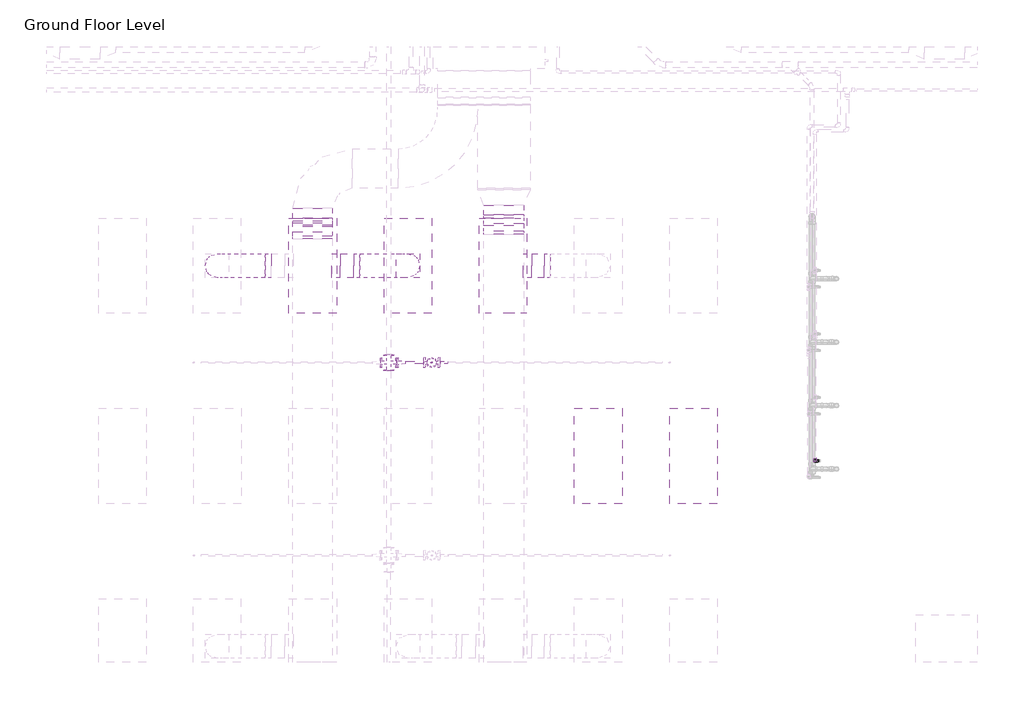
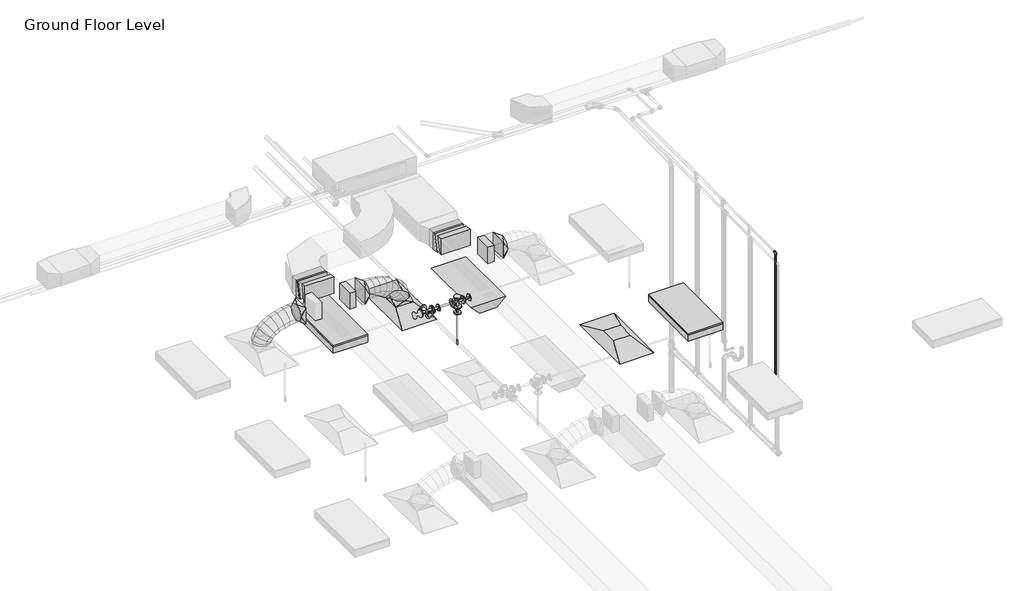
# One storey, part 48 of 68: 11 duct fittings, 8 duct segments, 7 pipe fittings, 4 pipe segments, 3 light fixtures, 2 air terminals, 1 fire suppression terminal.
"""IFC4 building model written with IfcOpenShell, lengths in millimetres."""

from ifc_helpers import new_model, si_unit, point, frame, frame_2d, origin, place, context, project, spatial, polyline, circle_curve, ellipse_curve, trimmed, segment, composite_curve, outline, extrude, transform, mapped, element, save
from ifc_brep_helpers import plane_surface, cylinder_surface, advanced_brep
from components import m_return_diffuser_1200x600_1200_x_600_face_300_x_300_d1983ef6, m_rectangular_elbow_radius_1_w_f78a0081, m_rectangular_elbow_radius_1_w_1a1d0e92, m_rectangular_takeoff_standard_cb0ccb98, m_rectangular_transition_angle_45_degree_8d40617b, m_rectangular_to_round_transition_angle_45_degree_641efff0, m_sprinkler_dry_pendent_hosted_15_mm_dry_pendent_9bda8e11, m_emergency_recessed_lighting_fixture_600x1200_277_5b10b25d, m_troffer_light_parabolic_rectangular1_0600x1200mm_4_lamp_86473d4a, m_cross_flanged_cs_class_150_standard_fc817054, m_reducer_flanged_cs_class_150_standard_ccf252ad, m_reducer_flanged_cs_class_150_standard_d42b2106, m_reducer_flanged_cs_class_150_standard_8338f9e4, m_tee_round_base_flanged_cs_class_150_standard_7e5987a1, standard_b266ab3f

model = new_model("IFC4")

# Units and contexts
model_context = context("Model", 3, world=origin())
ifc_project = project(units=[si_unit("LENGTHUNIT", "METRE", prefix="MILLI")], contexts=[model_context])

# Site, building, storey
site = spatial("IfcSite", under=ifc_project)
building = spatial("IfcBuilding", under=site)
storey = spatial("IfcBuildingStorey", under=building, Name="Ground Floor Level", Elevation=900.0)

# Air terminals
placement = place(None, origin())
m_return_diffuser_1200x600_1200_x_600_face_300_x_300_shape = m_return_diffuser_1200x600_1200_x_600_face_300_x_300_d1983ef6(model_context)
element("IfcAirTerminal", 1, ObjectType="M_Return Diffuser 1200x600 : 1200 x 600 Face 300 x 300 Connection", at=placement, inside=storey, context=model_context, shape_type="MappedRepresentation", body=[
    mapped(m_return_diffuser_1200x600_1200_x_600_face_300_x_300_shape, transform((-3337.2327605, 8835.2153534, 3650.0), x_axis=(0.0, 1.0, 0.0), y_axis=(-1.0, 0.0, 0.0), z_axis=(0.0, 0.0, 1.0))),
])
element("IfcAirTerminal", 2, ObjectType="M_Supply Diffuser 1200x600 : 1200 x 600 Face 300 x 300 Connection", at=placement, inside=storey, context=model_context, shape_type="MappedRepresentation", body=[
    mapped(m_return_diffuser_1200x600_1200_x_600_face_300_x_300_shape, transform((-5737.2327605, 11235.2153534, 3650.0), x_axis=(0.0, 1.0, 0.0), y_axis=(-1.0, 0.0, 0.0), z_axis=(0.0, 0.0, 1.0))),
])

# Duct fittings
m_rectangular_elbow_radius_1_w_shape = m_rectangular_elbow_radius_1_w_f78a0081(model_context)
element("IfcDuctFitting", 3, ObjectType="M_Rectangular Elbow - Radius : 1 W", at=placement, inside=storey, context=model_context, shape_type="MappedRepresentation", body=[
    mapped(m_rectangular_elbow_radius_1_w_shape, transform((-4528.6910789, 11671.1593756, 4149.9980527), x_axis=(0.0, 0.999999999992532, -3.864729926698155e-06), y_axis=(0.0, -3.864729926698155e-06, -0.999999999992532), z_axis=(-1.0, 0.0, 0.0))),
])
element("IfcDuctFitting", 4, ObjectType="M_Rectangular Elbow - Radius : 1 W", at=placement, inside=storey, context=model_context, shape_type="MappedRepresentation", body=[
    mapped(m_rectangular_elbow_radius_1_w_shape, transform((-4528.6910789, 11835.9032855, 4107.134916), x_axis=(0.0, -0.999999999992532, 3.864729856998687e-06), y_axis=(0.0, 3.864729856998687e-06, 0.999999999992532), z_axis=(-1.0, 0.0, 0.0))),
])
m_rectangular_elbow_radius_1_w_2_shape = m_rectangular_elbow_radius_1_w_1a1d0e92(model_context)
element("IfcDuctFitting", 5, ObjectType="M_Rectangular Elbow - Radius : 1 W", at=placement, inside=storey, context=model_context, shape_type="MappedRepresentation", body=[
    mapped(m_rectangular_elbow_radius_1_w_2_shape, transform((-6939.6910789, 11605.2153534, 4150.0), x_axis=(0.0, 1.0, 0.0), y_axis=(-4.8368849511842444e-06, 0.0, -0.9999999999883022), z_axis=(-0.9999999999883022, 0.0, 4.8368849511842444e-06))),
])
element("IfcDuctFitting", 6, ObjectType="M_Rectangular Elbow - Radius : 1 W", at=placement, inside=storey, context=model_context, shape_type="MappedRepresentation", body=[
    mapped(m_rectangular_elbow_radius_1_w_2_shape, transform((-6939.6912607, 11801.8710367, 4107.1399598), x_axis=(0.0, -1.0, 0.0), y_axis=(4.836885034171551e-06, 0.0, 0.9999999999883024), z_axis=(-0.9999999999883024, 0.0, 4.836885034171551e-06))),
])
m_rectangular_takeoff_standard_shape = m_rectangular_takeoff_standard_cb0ccb98(model_context)
element("IfcDuctFitting", 7, ObjectType="M_Rectangular Takeoff : Standard", at=placement, inside=storey, context=model_context, shape_type="MappedRepresentation", body=[
    mapped(m_rectangular_takeoff_standard_shape, transform((-4278.6910789, 11235.2153534, 4150.0), x_axis=(1.0, 0.0, 0.0), y_axis=(0.0, -1.0, 0.0), z_axis=(0.0, 0.0, -1.0))),
])
element("IfcDuctFitting", 8, ObjectType="M_Rectangular Takeoff : Standard", at=placement, inside=storey, context=model_context, shape_type="MappedRepresentation", body=[
    mapped(m_rectangular_takeoff_standard_shape, transform((-6689.6910789, 11235.2153534, 4150.0), x_axis=(1.0, 0.0, 0.0), y_axis=(0.0, -1.0, 0.0), z_axis=(0.0, 0.0, -1.0))),
])
m_rectangular_transition_angle_45_degree_shape = m_rectangular_transition_angle_45_degree_8d40617b(model_context)
element("IfcDuctFitting", 9, ObjectType="M_Rectangular Transition - Angle : 45 Degree", at=placement, inside=storey, context=model_context, shape_type="MappedRepresentation", body=[
    mapped(m_rectangular_transition_angle_45_degree_shape, transform((-6939.6912351, 11774.1025359, 4112.4195134), x_axis=(9.034404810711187e-07, -0.9824014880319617, 0.18678146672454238), y_axis=(0.9999999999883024, 0.0, -4.836885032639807e-06), z_axis=(4.751763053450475e-06, 0.1867814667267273, 0.9824014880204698))),
])
m_rectangular_to_round_transition_angle_45_degree_shape = m_rectangular_to_round_transition_angle_45_degree_641efff0(model_context)
element("IfcDuctFitting", 10, ObjectType="M_Rectangular to Round Transition - Angle : 45 Degree", at=placement, inside=storey, context=model_context, shape_type="MappedRepresentation", body=[
    mapped(m_rectangular_to_round_transition_angle_45_degree_shape, transform((-7461.2487616, 11235.2153534, 4150.0), x_axis=(-1.0, 0.0, 0.0), y_axis=(0.0, -1.0, 0.0), z_axis=(0.0, 0.0, 1.0))),
])
element("IfcDuctFitting", 11, ObjectType="M_Rectangular to Round Transition - Angle : 45 Degree", at=placement, inside=storey, context=model_context, shape_type="MappedRepresentation", body=[
    mapped(m_rectangular_to_round_transition_angle_45_degree_shape, transform((-5737.2327605, 11235.2153534, 3751.6), x_axis=(0.0, 0.0, 1.0), y_axis=(-1.0, 0.0, 0.0), z_axis=(0.0, -1.0, 0.0))),
])
element("IfcDuctFitting", 12, ObjectType="M_Rectangular to Round Transition - Angle : 45 Degree", at=placement, inside=storey, context=model_context, shape_type="MappedRepresentation", body=[
    mapped(m_rectangular_to_round_transition_angle_45_degree_shape, transform((-6418.6686918, 11235.2153534, 4150.0), x_axis=(1.0, 0.0, 0.0), y_axis=(0.0, 1.0, 0.0), z_axis=(0.0, 0.0, 1.0))),
])
element("IfcDuctFitting", 13, ObjectType="M_Rectangular to Round Transition - Angle : 45 Degree", at=placement, inside=storey, context=model_context, shape_type="MappedRepresentation", body=[
    mapped(m_rectangular_to_round_transition_angle_45_degree_shape, transform((-4018.6725245, 11235.2153534, 4150.0), x_axis=(1.0, 0.0, 0.0), y_axis=(0.0, 1.0, 0.0), z_axis=(0.0, 0.0, 1.0))),
])

# Duct segments
element("IfcDuctSegment", 14, ObjectType="Flex - Round", at=placement, inside=storey, context=model_context, shape_type="AdvancedBrep", body=[
    advanced_brep(
    [(-7992.6846929, 11235.2153534, 3826.6), (-8142.6846929, 11085.2153534, 3826.6), (-8292.6846929, 11235.2153534, 3826.6), (-8142.6846929, 11385.2153534, 3826.6), (-7992.6846929, 11235.2153534, 3832.4838104), (-8142.6846929, 11085.2153534, 3857.3049615), (-8292.6846929, 11235.2153534, 3882.1261126), (-8142.6846929, 11385.2153534, 3857.3049615), (-7990.555208, 11235.2153534, 3838.7421096), (-8126.0232883, 11085.2153534, 3906.2708192), (-8261.4913687, 11235.2153534, 3973.7995287), (-8126.0232883, 11385.2153534, 3906.2708192), (-7968.5331802, 11235.2153534, 3871.1472855), (-8080.1452707, 11085.2153534, 3973.7798261), (-8191.7573612, 11235.2153534, 4076.4123668), (-8080.1452707, 11385.2153534, 3973.7798261), (-7928.5904556, 11235.2153534, 3903.4915826), (-8011.2099341, 11085.2153534, 4029.6013814), (-8093.8294126, 11235.2153534, 4155.7111802), (-8011.2099341, 11385.2153534, 4029.6013814), (-7865.6682729, 11235.2153534, 3936.1928758), (-7925.3765727, 11085.2153534, 4074.2098454), (-7985.0848725, 11235.2153534, 4212.226815), (-7925.3765727, 11385.2153534, 4074.2098454), (-7786.815881, 11235.2153534, 3963.8479616), (-7828.8044806, 11085.2153534, 4108.0795788), (-7870.7930803, 11235.2153534, 4252.311196), (-7828.8044806, 11385.2153534, 4108.0795788), (-7700.2438983, 11235.2153534, 3984.0509494), (-7727.652952, 11085.2153534, 4131.684942), (-7755.0620057, 11235.2153534, 4279.3189347), (-7727.652952, 11385.2153534, 4131.684942), (-7613.759715, 11235.2153534, 3996.0504424), (-7628.081281, 11085.2153534, 4145.5002956), (-7642.4028469, 11235.2153534, 4294.9501488), (-7628.081281, 11385.2153534, 4145.5002956), (-7539.5984134, 11235.2153534, 4000.0), (-7543.5898089, 11085.2153534, 4150.0), (-7547.5812043, 11235.2153534, 4300.0), (-7543.5898089, 11385.2153534, 4150.0), (-7536.2487616, 11235.2153534, 4000.0), (-7536.2487616, 11385.2153534, 4150.0), (-7536.2487616, 11235.2153534, 4300.0), (-7536.2487616, 11085.2153534, 4150.0)],
    [
        (0, 1, circle_curve(frame((-8142.6846929, 11235.2153534, 3826.6), z_axis=(0.0, 0.0, -1.0), x_axis=(1.0, 0.0, 0.0)), 150.0)),
        (1, 2, circle_curve(frame((-8142.6846929, 11235.2153534, 3826.6), z_axis=(0.0, 0.0, -1.0), x_axis=(1.0, 0.0, 0.0)), 150.0)),
        (2, 3, circle_curve(frame((-8142.6846929, 11235.2153534, 3826.6), z_axis=(0.0, 0.0, -1.0), x_axis=(1.0, 0.0, 0.0)), 150.0)),
        (3, 0, circle_curve(frame((-8142.6846929, 11235.2153534, 3826.6), z_axis=(0.0, 0.0, -1.0), x_axis=(1.0, 0.0, 0.0)), 150.0)),
        (0, 4),
        (4, 5, ellipse_curve(frame((-8142.6846929, 11235.2153534, 3857.3049615), z_axis=(-0.1632543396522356, 0.0, -0.9865840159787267), x_axis=(0.9865840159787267, 0.0, -0.16325433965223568)), 152.039763, 150.0)),
        (5, 1),
        (5, 6, ellipse_curve(frame((-8142.6846929, 11235.2153534, 3857.3049615), z_axis=(-0.1632543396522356, 0.0, -0.9865840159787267), x_axis=(0.9865840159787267, 0.0, -0.16325433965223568)), 152.039763, 150.0)),
        (6, 2),
        (6, 7, ellipse_curve(frame((-8142.6846929, 11235.2153534, 3857.3049615), z_axis=(-0.1632543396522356, 0.0, -0.9865840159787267), x_axis=(0.9865840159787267, 0.0, -0.16325433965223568)), 152.039763, 150.0)),
        (7, 3),
        (7, 4, ellipse_curve(frame((-8142.6846929, 11235.2153534, 3857.3049615), z_axis=(-0.1632543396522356, 0.0, -0.9865840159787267), x_axis=(0.9865840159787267, 0.0, -0.16325433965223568)), 152.039763, 150.0)),
        (4, 8),
        (8, 9, ellipse_curve(frame((-8126.0232883, 11235.2153534, 3906.2708192), z_axis=(-0.4461280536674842, 0.0, -0.8949691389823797), x_axis=(0.8949691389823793, 0.0, -0.4461280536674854)), 151.366203, 150.0)),
        (9, 5),
        (9, 10, ellipse_curve(frame((-8126.0232883, 11235.2153534, 3906.2708192), z_axis=(-0.4461280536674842, 0.0, -0.8949691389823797), x_axis=(0.8949691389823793, 0.0, -0.4461280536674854)), 151.366203, 150.0)),
        (10, 6),
        (10, 11, ellipse_curve(frame((-8126.0232883, 11235.2153534, 3906.2708192), z_axis=(-0.4461280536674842, 0.0, -0.8949691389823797), x_axis=(0.8949691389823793, 0.0, -0.4461280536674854)), 151.366203, 150.0)),
        (11, 7),
        (11, 8, ellipse_curve(frame((-8126.0232883, 11235.2153534, 3906.2708192), z_axis=(-0.4461280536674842, 0.0, -0.8949691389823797), x_axis=(0.8949691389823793, 0.0, -0.4461280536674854)), 151.366203, 150.0)),
        (8, 12),
        (12, 13, ellipse_curve(frame((-8080.1452707, 11235.2153534, 3973.7798261), z_axis=(-0.676875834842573, 0.0, -0.7360972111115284), x_axis=(0.7360972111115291, 0.0, -0.6768758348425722)), 151.6268352, 150.0)),
        (13, 9),
        (13, 14, ellipse_curve(frame((-8080.1452707, 11235.2153534, 3973.7798261), z_axis=(-0.676875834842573, 0.0, -0.7360972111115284), x_axis=(0.7360972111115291, 0.0, -0.6768758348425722)), 151.6268352, 150.0)),
        (14, 10),
        (14, 15, ellipse_curve(frame((-8080.1452707, 11235.2153534, 3973.7798261), z_axis=(-0.676875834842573, 0.0, -0.7360972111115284), x_axis=(0.7360972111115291, 0.0, -0.6768758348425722)), 151.6268352, 150.0)),
        (15, 11),
        (15, 12, ellipse_curve(frame((-8080.1452707, 11235.2153534, 3973.7798261), z_axis=(-0.676875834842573, 0.0, -0.7360972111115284), x_axis=(0.7360972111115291, 0.0, -0.6768758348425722)), 151.6268352, 150.0)),
        (12, 16),
        (16, 17, ellipse_curve(frame((-8011.2099341, 11235.2153534, 4029.6013814), z_axis=(-0.8364738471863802, 0.0, -0.5480068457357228), x_axis=(0.5480068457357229, 0.0, -0.8364738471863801)), 150.7635884, 150.0)),
        (17, 13),
        (17, 18, ellipse_curve(frame((-8011.2099341, 11235.2153534, 4029.6013814), z_axis=(-0.8364738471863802, 0.0, -0.5480068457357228), x_axis=(0.5480068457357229, 0.0, -0.8364738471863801)), 150.7635884, 150.0)),
        (18, 14),
        (18, 19, ellipse_curve(frame((-8011.2099341, 11235.2153534, 4029.6013814), z_axis=(-0.8364738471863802, 0.0, -0.5480068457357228), x_axis=(0.5480068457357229, 0.0, -0.8364738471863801)), 150.7635884, 150.0)),
        (19, 15),
        (19, 16, ellipse_curve(frame((-8011.2099341, 11235.2153534, 4029.6013814), z_axis=(-0.8364738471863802, 0.0, -0.5480068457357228), x_axis=(0.5480068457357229, 0.0, -0.8364738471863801)), 150.7635884, 150.0)),
        (16, 20),
        (20, 21, ellipse_curve(frame((-7925.3765727, 11235.2153534, 4074.2098454), z_axis=(-0.917795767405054, 0.0, -0.3970528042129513), x_axis=(0.3970528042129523, 0.0, -0.9177957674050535)), 150.3787384, 150.0)),
        (21, 17),
        (21, 22, ellipse_curve(frame((-7925.3765727, 11235.2153534, 4074.2098454), z_axis=(-0.917795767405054, 0.0, -0.3970528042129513), x_axis=(0.3970528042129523, 0.0, -0.9177957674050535)), 150.3787384, 150.0)),
        (22, 18),
        (22, 23, ellipse_curve(frame((-7925.3765727, 11235.2153534, 4074.2098454), z_axis=(-0.917795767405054, 0.0, -0.3970528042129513), x_axis=(0.3970528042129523, 0.0, -0.9177957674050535)), 150.3787384, 150.0)),
        (23, 19),
        (23, 20, ellipse_curve(frame((-7925.3765727, 11235.2153534, 4074.2098454), z_axis=(-0.917795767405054, 0.0, -0.3970528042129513), x_axis=(0.3970528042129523, 0.0, -0.9177957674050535)), 150.3787384, 150.0)),
        (20, 24),
        (24, 25, ellipse_curve(frame((-7828.8044806, 11235.2153534, 4108.0795788), z_axis=(-0.9601411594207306, 0.0, -0.2795155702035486), x_axis=(0.27951557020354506, 0.0, -0.9601411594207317)), 150.2191795, 150.0)),
        (25, 21),
        (25, 26, ellipse_curve(frame((-7828.8044806, 11235.2153534, 4108.0795788), z_axis=(-0.9601411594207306, 0.0, -0.2795155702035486), x_axis=(0.27951557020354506, 0.0, -0.9601411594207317)), 150.2191795, 150.0)),
        (26, 22),
        (26, 27, ellipse_curve(frame((-7828.8044806, 11235.2153534, 4108.0795788), z_axis=(-0.9601411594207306, 0.0, -0.2795155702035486), x_axis=(0.27951557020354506, 0.0, -0.9601411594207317)), 150.2191795, 150.0)),
        (27, 23),
        (27, 24, ellipse_curve(frame((-7828.8044806, 11235.2153534, 4108.0795788), z_axis=(-0.9601411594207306, 0.0, -0.2795155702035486), x_axis=(0.27951557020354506, 0.0, -0.9601411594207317)), 150.2191795, 150.0)),
        (24, 28),
        (28, 29, ellipse_curve(frame((-7727.652952, 11235.2153534, 4131.684942), z_axis=(-0.9831991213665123, 0.0, -0.1825362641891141), x_axis=(0.18253626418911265, 0.0, -0.9831991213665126)), 150.1567581, 150.0)),
        (29, 25),
        (29, 30, ellipse_curve(frame((-7727.652952, 11235.2153534, 4131.684942), z_axis=(-0.9831991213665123, 0.0, -0.1825362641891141), x_axis=(0.18253626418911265, 0.0, -0.9831991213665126)), 150.1567581, 150.0)),
        (30, 26),
        (30, 31, ellipse_curve(frame((-7727.652952, 11235.2153534, 4131.684942), z_axis=(-0.9831991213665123, 0.0, -0.1825362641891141), x_axis=(0.18253626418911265, 0.0, -0.9831991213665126)), 150.1567581, 150.0)),
        (31, 27),
        (31, 28, ellipse_curve(frame((-7727.652952, 11235.2153534, 4131.684942), z_axis=(-0.9831991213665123, 0.0, -0.1825362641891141), x_axis=(0.18253626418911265, 0.0, -0.9831991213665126)), 150.1567581, 150.0)),
        (28, 32),
        (32, 33, ellipse_curve(frame((-7628.081281, 11235.2153534, 4145.5002956), z_axis=(-0.9954398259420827, 0.0, -0.09539157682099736), x_axis=(0.09539157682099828, 0.0, -0.9954398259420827)), 150.1344926, 150.0)),
        (33, 29),
        (33, 34, ellipse_curve(frame((-7628.081281, 11235.2153534, 4145.5002956), z_axis=(-0.9954398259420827, 0.0, -0.09539157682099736), x_axis=(0.09539157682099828, 0.0, -0.9954398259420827)), 150.1344926, 150.0)),
        (34, 30),
        (34, 35, ellipse_curve(frame((-7628.081281, 11235.2153534, 4145.5002956), z_axis=(-0.9954398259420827, 0.0, -0.09539157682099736), x_axis=(0.09539157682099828, 0.0, -0.9954398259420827)), 150.1344926, 150.0)),
        (35, 31),
        (35, 32, ellipse_curve(frame((-7628.081281, 11235.2153534, 4145.5002956), z_axis=(-0.9954398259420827, 0.0, -0.09539157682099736), x_axis=(0.09539157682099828, 0.0, -0.9954398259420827)), 150.1344926, 150.0)),
        (32, 36),
        (36, 37, ellipse_curve(frame((-7543.5898089, 11235.2153534, 4150.0), z_axis=(-0.9996461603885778, 0.0, -0.026599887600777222), x_axis=(0.026599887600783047, 0.0, -0.9996461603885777)), 150.0530947, 150.0)),
        (37, 33),
        (37, 38, ellipse_curve(frame((-7543.5898089, 11235.2153534, 4150.0), z_axis=(-0.9996461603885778, 0.0, -0.026599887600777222), x_axis=(0.026599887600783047, 0.0, -0.9996461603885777)), 150.0530947, 150.0)),
        (38, 34),
        (38, 39, ellipse_curve(frame((-7543.5898089, 11235.2153534, 4150.0), z_axis=(-0.9996461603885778, 0.0, -0.026599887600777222), x_axis=(0.026599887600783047, 0.0, -0.9996461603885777)), 150.0530947, 150.0)),
        (39, 35),
        (39, 36, ellipse_curve(frame((-7543.5898089, 11235.2153534, 4150.0), z_axis=(-0.9996461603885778, 0.0, -0.026599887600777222), x_axis=(0.026599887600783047, 0.0, -0.9996461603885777)), 150.0530947, 150.0)),
        (40, 41, circle_curve(frame((-7536.2487616, 11235.2153534, 4150.0), z_axis=(1.0, 0.0, 0.0), x_axis=(0.0, 0.0, -1.0)), 150.0)),
        (41, 42, circle_curve(frame((-7536.2487616, 11235.2153534, 4150.0), z_axis=(1.0, 0.0, 0.0), x_axis=(0.0, 0.0, -1.0)), 150.0)),
        (42, 43, circle_curve(frame((-7536.2487616, 11235.2153534, 4150.0), z_axis=(1.0, 0.0, 0.0), x_axis=(0.0, 0.0, -1.0)), 150.0)),
        (43, 40, circle_curve(frame((-7536.2487616, 11235.2153534, 4150.0), z_axis=(1.0, 0.0, 0.0), x_axis=(0.0, 0.0, -1.0)), 150.0)),
        (36, 40),
        (43, 37),
        (42, 38),
        (41, 39),
    ],
    [
        plane_surface(frame((-8142.6846929, 11085.2153534, 3826.6), z_axis=(0.0, 0.0, -1.0), x_axis=(1.0, 0.0, 0.0))),
        cylinder_surface(frame((-8142.6846929, 11235.2153534, 3826.6), z_axis=(0.0, 0.0, -1.0), x_axis=(1.0, 0.0, 0.0)), 150.0),
        cylinder_surface(frame((-8142.6846929, 11235.2153534, 3857.3049615), z_axis=(-0.32212824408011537, 0.0, -0.946696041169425), x_axis=(0.946696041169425, 0.0, -0.32212824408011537)), 150.0),
        cylinder_surface(frame((-8126.0232883, 11235.2153534, 3906.2708192), z_axis=(-0.5620745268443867, 0.0, -0.8270865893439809), x_axis=(0.8270865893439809, 0.0, -0.5620745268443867)), 150.0),
        cylinder_surface(frame((-8080.1452707, 11235.2153534, 3973.7798261), z_axis=(-0.777152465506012, 0.0, -0.6293123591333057), x_axis=(0.6293123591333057, 0.0, -0.777152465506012)), 150.0),
        cylinder_surface(frame((-8011.2099341, 11235.2153534, 4029.6013814), z_axis=(-0.887322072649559, 0.0, -0.4611502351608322), x_axis=(0.4611502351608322, 0.0, -0.887322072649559)), 150.0),
        cylinder_surface(frame((-7925.3765727, 11235.2153534, 4074.2098454), z_axis=(-0.9436464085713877, 0.0, -0.3309553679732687), x_axis=(0.3309553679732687, 0.0, -0.9436464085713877)), 150.0),
        cylinder_surface(frame((-7828.8044806, 11235.2153534, 4108.0795788), z_axis=(-0.9738340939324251, 0.0, -0.2272601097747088), x_axis=(0.2272601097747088, 0.0, -0.9738340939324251)), 150.0),
        cylinder_surface(frame((-7727.652952, 11235.2153534, 4131.684942), z_axis=(-0.9905113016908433, 0.0, -0.1374312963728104), x_axis=(0.1374312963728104, 0.0, -0.9905113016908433)), 150.0),
        cylinder_surface(frame((-7628.081281, 11235.2153534, 4145.5002956), z_axis=(-0.998584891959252, 0.0, -0.05318095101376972), x_axis=(0.05318095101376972, 0.0, -0.998584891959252)), 150.0),
        plane_surface(frame((-7536.2487616, 11235.2153534, 4000.0), z_axis=(1.0, 0.0, 0.0), x_axis=(0.0, 1.0, 0.0))),
        cylinder_surface(frame((-7543.5898089, 11235.2153534, 4150.0), z_axis=(-1.0, 0.0, 0.0), x_axis=(0.0, 0.0, -1.0)), 150.0),
    ],
    [
        (0, [[1, 2, 3, 4]]),
        (1, [[-1, 5, 6, 7]]),
        (1, [[-2, -7, 8, 9]]),
        (1, [[-3, -9, 10, 11]]),
        (1, [[-4, -11, 12, -5]]),
        (2, [[-6, 13, 14, 15]]),
        (2, [[-8, -15, 16, 17]]),
        (2, [[-10, -17, 18, 19]]),
        (2, [[-12, -19, 20, -13]]),
        (3, [[-14, 21, 22, 23]]),
        (3, [[-16, -23, 24, 25]]),
        (3, [[-18, -25, 26, 27]]),
        (3, [[-20, -27, 28, -21]]),
        (4, [[-22, 29, 30, 31]]),
        (4, [[-24, -31, 32, 33]]),
        (4, [[-26, -33, 34, 35]]),
        (4, [[-28, -35, 36, -29]]),
        (5, [[-30, 37, 38, 39]]),
        (5, [[-32, -39, 40, 41]]),
        (5, [[-34, -41, 42, 43]]),
        (5, [[-36, -43, 44, -37]]),
        (6, [[-38, 45, 46, 47]]),
        (6, [[-40, -47, 48, 49]]),
        (6, [[-42, -49, 50, 51]]),
        (6, [[-44, -51, 52, -45]]),
        (7, [[-46, 53, 54, 55]]),
        (7, [[-48, -55, 56, 57]]),
        (7, [[-50, -57, 58, 59]]),
        (7, [[-52, -59, 60, -53]]),
        (8, [[-54, 61, 62, 63]]),
        (8, [[-56, -63, 64, 65]]),
        (8, [[-58, -65, 66, 67]]),
        (8, [[-60, -67, 68, -61]]),
        (9, [[-62, 69, 70, 71]]),
        (9, [[-64, -71, 72, 73]]),
        (9, [[-66, -73, 74, 75]]),
        (9, [[-68, -75, 76, -69]]),
        (10, [[77, 78, 79, 80]]),
        (11, [[-70, 81, -80, 82]]),
        (11, [[-72, -82, -79, 83]]),
        (11, [[-74, -83, -78, 84]]),
        (11, [[-76, -84, -77, -81]]),
    ],
),
])
element("IfcDuctSegment", 15, ObjectType="Flex - Round", at=placement, inside=storey, context=model_context, shape_type="AdvancedBrep", body=[
    advanced_brep(
    [(-5587.2327605, 11235.2153534, 3826.6), (-5737.2327605, 11085.2153534, 3826.6), (-5887.2327605, 11235.2153534, 3826.6), (-5737.2327605, 11385.2153534, 3826.6), (-5587.2327605, 11235.2153534, 3882.1261126), (-5737.2327605, 11085.2153534, 3857.3049615), (-5887.2327605, 11235.2153534, 3832.4838104), (-5737.2327605, 11385.2153534, 3857.3049615), (-5618.4260847, 11235.2153534, 3973.7995287), (-5753.8941651, 11085.2153534, 3906.2708192), (-5889.3622454, 11235.2153534, 3838.7421096), (-5753.8941651, 11385.2153534, 3906.2708192), (-5688.1600922, 11235.2153534, 4076.4123668), (-5799.7721827, 11085.2153534, 3973.7798261), (-5911.3842733, 11235.2153534, 3871.1472855), (-5799.7721827, 11385.2153534, 3973.7798261), (-5786.0880408, 11235.2153534, 4155.7111802), (-5868.7075193, 11085.2153534, 4029.6013814), (-5951.3269979, 11235.2153534, 3903.4915826), (-5868.7075193, 11385.2153534, 4029.6013814), (-5894.832581, 11235.2153534, 4212.226815), (-5954.5408807, 11085.2153534, 4074.2098454), (-6014.2491805, 11235.2153534, 3936.1928758), (-5954.5408807, 11385.2153534, 4074.2098454), (-6009.1243732, 11235.2153534, 4252.311196), (-6051.1129728, 11085.2153534, 4108.0795788), (-6093.1015724, 11235.2153534, 3963.8479616), (-6051.1129728, 11385.2153534, 4108.0795788), (-6124.8554478, 11235.2153534, 4279.3189347), (-6152.2645014, 11085.2153534, 4131.684942), (-6179.6735551, 11235.2153534, 3984.0509494), (-6152.2645014, 11385.2153534, 4131.684942), (-6237.5146065, 11235.2153534, 4294.9501488), (-6251.8361725, 11085.2153534, 4145.5002956), (-6266.1577385, 11235.2153534, 3996.0504424), (-6251.8361725, 11385.2153534, 4145.5002956), (-6332.3362491, 11235.2153534, 4300.0), (-6336.3276445, 11085.2153534, 4150.0), (-6340.31904, 11235.2153534, 4000.0), (-6336.3276445, 11385.2153534, 4150.0), (-6343.6686918, 11235.2153534, 4300.0), (-6343.6686918, 11385.2153534, 4150.0), (-6343.6686918, 11235.2153534, 4000.0), (-6343.6686918, 11085.2153534, 4150.0)],
    [
        (0, 1, circle_curve(frame((-5737.2327605, 11235.2153534, 3826.6), z_axis=(0.0, 0.0, -1.0), x_axis=(1.0, 0.0, 0.0)), 150.0)),
        (1, 2, circle_curve(frame((-5737.2327605, 11235.2153534, 3826.6), z_axis=(0.0, 0.0, -1.0), x_axis=(1.0, 0.0, 0.0)), 150.0)),
        (2, 3, circle_curve(frame((-5737.2327605, 11235.2153534, 3826.6), z_axis=(0.0, 0.0, -1.0), x_axis=(1.0, 0.0, 0.0)), 150.0)),
        (3, 0, circle_curve(frame((-5737.2327605, 11235.2153534, 3826.6), z_axis=(0.0, 0.0, -1.0), x_axis=(1.0, 0.0, 0.0)), 150.0)),
        (0, 4),
        (4, 5, ellipse_curve(frame((-5737.2327605, 11235.2153534, 3857.3049615), z_axis=(0.1632543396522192, 0.0, -0.9865840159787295), x_axis=(-0.9865840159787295, 0.0, -0.16325433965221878)), 152.039763, 150.0)),
        (5, 1),
        (5, 6, ellipse_curve(frame((-5737.2327605, 11235.2153534, 3857.3049615), z_axis=(0.1632543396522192, 0.0, -0.9865840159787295), x_axis=(-0.9865840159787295, 0.0, -0.16325433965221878)), 152.039763, 150.0)),
        (6, 2),
        (6, 7, ellipse_curve(frame((-5737.2327605, 11235.2153534, 3857.3049615), z_axis=(0.1632543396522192, 0.0, -0.9865840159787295), x_axis=(-0.9865840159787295, 0.0, -0.16325433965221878)), 152.039763, 150.0)),
        (7, 3),
        (7, 4, ellipse_curve(frame((-5737.2327605, 11235.2153534, 3857.3049615), z_axis=(0.1632543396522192, 0.0, -0.9865840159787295), x_axis=(-0.9865840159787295, 0.0, -0.16325433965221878)), 152.039763, 150.0)),
        (4, 8),
        (8, 9, ellipse_curve(frame((-5753.8941651, 11235.2153534, 3906.2708192), z_axis=(0.44612805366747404, 0.0, -0.8949691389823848), x_axis=(-0.8949691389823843, 0.0, -0.44612805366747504)), 151.366203, 150.0)),
        (9, 5),
        (9, 10, ellipse_curve(frame((-5753.8941651, 11235.2153534, 3906.2708192), z_axis=(0.44612805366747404, 0.0, -0.8949691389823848), x_axis=(-0.8949691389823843, 0.0, -0.44612805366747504)), 151.366203, 150.0)),
        (10, 6),
        (10, 11, ellipse_curve(frame((-5753.8941651, 11235.2153534, 3906.2708192), z_axis=(0.44612805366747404, 0.0, -0.8949691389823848), x_axis=(-0.8949691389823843, 0.0, -0.44612805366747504)), 151.366203, 150.0)),
        (11, 7),
        (11, 8, ellipse_curve(frame((-5753.8941651, 11235.2153534, 3906.2708192), z_axis=(0.44612805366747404, 0.0, -0.8949691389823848), x_axis=(-0.8949691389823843, 0.0, -0.44612805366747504)), 151.366203, 150.0)),
        (8, 12),
        (12, 13, ellipse_curve(frame((-5799.7721827, 11235.2153534, 3973.7798261), z_axis=(0.6768758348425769, 0.0, -0.7360972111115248), x_axis=(-0.7360972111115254, 0.0, -0.6768758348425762)), 151.6268352, 150.0)),
        (13, 9),
        (13, 14, ellipse_curve(frame((-5799.7721827, 11235.2153534, 3973.7798261), z_axis=(0.6768758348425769, 0.0, -0.7360972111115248), x_axis=(-0.7360972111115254, 0.0, -0.6768758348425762)), 151.6268352, 150.0)),
        (14, 10),
        (14, 15, ellipse_curve(frame((-5799.7721827, 11235.2153534, 3973.7798261), z_axis=(0.6768758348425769, 0.0, -0.7360972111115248), x_axis=(-0.7360972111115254, 0.0, -0.6768758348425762)), 151.6268352, 150.0)),
        (15, 11),
        (15, 12, ellipse_curve(frame((-5799.7721827, 11235.2153534, 3973.7798261), z_axis=(0.6768758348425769, 0.0, -0.7360972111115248), x_axis=(-0.7360972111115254, 0.0, -0.6768758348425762)), 151.6268352, 150.0)),
        (12, 16),
        (16, 17, ellipse_curve(frame((-5868.7075193, 11235.2153534, 4029.6013814), z_axis=(0.8364738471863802, 0.0, -0.5480068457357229), x_axis=(-0.5480068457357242, 0.0, -0.8364738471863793)), 150.7635884, 150.0)),
        (17, 13),
        (17, 18, ellipse_curve(frame((-5868.7075193, 11235.2153534, 4029.6013814), z_axis=(0.8364738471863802, 0.0, -0.5480068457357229), x_axis=(-0.5480068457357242, 0.0, -0.8364738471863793)), 150.7635884, 150.0)),
        (18, 14),
        (18, 19, ellipse_curve(frame((-5868.7075193, 11235.2153534, 4029.6013814), z_axis=(0.8364738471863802, 0.0, -0.5480068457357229), x_axis=(-0.5480068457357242, 0.0, -0.8364738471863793)), 150.7635884, 150.0)),
        (19, 15),
        (19, 16, ellipse_curve(frame((-5868.7075193, 11235.2153534, 4029.6013814), z_axis=(0.8364738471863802, 0.0, -0.5480068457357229), x_axis=(-0.5480068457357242, 0.0, -0.8364738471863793)), 150.7635884, 150.0)),
        (16, 20),
        (20, 21, ellipse_curve(frame((-5954.5408807, 11235.2153534, 4074.2098454), z_axis=(0.9177957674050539, 0.0, -0.39705280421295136), x_axis=(-0.39705280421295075, 0.0, -0.9177957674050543)), 150.3787384, 150.0)),
        (21, 17),
        (21, 22, ellipse_curve(frame((-5954.5408807, 11235.2153534, 4074.2098454), z_axis=(0.9177957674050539, 0.0, -0.39705280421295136), x_axis=(-0.39705280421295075, 0.0, -0.9177957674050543)), 150.3787384, 150.0)),
        (22, 18),
        (22, 23, ellipse_curve(frame((-5954.5408807, 11235.2153534, 4074.2098454), z_axis=(0.9177957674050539, 0.0, -0.39705280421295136), x_axis=(-0.39705280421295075, 0.0, -0.9177957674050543)), 150.3787384, 150.0)),
        (23, 19),
        (23, 20, ellipse_curve(frame((-5954.5408807, 11235.2153534, 4074.2098454), z_axis=(0.9177957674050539, 0.0, -0.39705280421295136), x_axis=(-0.39705280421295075, 0.0, -0.9177957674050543)), 150.3787384, 150.0)),
        (20, 24),
        (24, 25, ellipse_curve(frame((-6051.1129728, 11235.2153534, 4108.0795788), z_axis=(0.9601411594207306, 0.0, -0.2795155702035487), x_axis=(-0.27951557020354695, 0.0, -0.9601411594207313)), 150.2191795, 150.0)),
        (25, 21),
        (25, 26, ellipse_curve(frame((-6051.1129728, 11235.2153534, 4108.0795788), z_axis=(0.9601411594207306, 0.0, -0.2795155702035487), x_axis=(-0.27951557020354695, 0.0, -0.9601411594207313)), 150.2191795, 150.0)),
        (26, 22),
        (26, 27, ellipse_curve(frame((-6051.1129728, 11235.2153534, 4108.0795788), z_axis=(0.9601411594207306, 0.0, -0.2795155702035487), x_axis=(-0.27951557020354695, 0.0, -0.9601411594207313)), 150.2191795, 150.0)),
        (27, 23),
        (27, 24, ellipse_curve(frame((-6051.1129728, 11235.2153534, 4108.0795788), z_axis=(0.9601411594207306, 0.0, -0.2795155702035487), x_axis=(-0.27951557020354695, 0.0, -0.9601411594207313)), 150.2191795, 150.0)),
        (24, 28),
        (28, 29, ellipse_curve(frame((-6152.2645014, 11235.2153534, 4131.684942), z_axis=(0.9831991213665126, 0.0, -0.1825362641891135), x_axis=(-0.1825362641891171, 0.0, -0.9831991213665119)), 150.1567581, 150.0)),
        (29, 25),
        (29, 30, ellipse_curve(frame((-6152.2645014, 11235.2153534, 4131.684942), z_axis=(0.9831991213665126, 0.0, -0.1825362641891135), x_axis=(-0.1825362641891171, 0.0, -0.9831991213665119)), 150.1567581, 150.0)),
        (30, 26),
        (30, 31, ellipse_curve(frame((-6152.2645014, 11235.2153534, 4131.684942), z_axis=(0.9831991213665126, 0.0, -0.1825362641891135), x_axis=(-0.1825362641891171, 0.0, -0.9831991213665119)), 150.1567581, 150.0)),
        (31, 27),
        (31, 28, ellipse_curve(frame((-6152.2645014, 11235.2153534, 4131.684942), z_axis=(0.9831991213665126, 0.0, -0.1825362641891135), x_axis=(-0.1825362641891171, 0.0, -0.9831991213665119)), 150.1567581, 150.0)),
        (28, 32),
        (32, 33, ellipse_curve(frame((-6251.8361725, 11235.2153534, 4145.5002956), z_axis=(0.9954398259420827, 0.0, -0.09539157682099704), x_axis=(-0.09539157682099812, 0.0, -0.9954398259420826)), 150.1344926, 150.0)),
        (33, 29),
        (33, 34, ellipse_curve(frame((-6251.8361725, 11235.2153534, 4145.5002956), z_axis=(0.9954398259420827, 0.0, -0.09539157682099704), x_axis=(-0.09539157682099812, 0.0, -0.9954398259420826)), 150.1344926, 150.0)),
        (34, 30),
        (34, 35, ellipse_curve(frame((-6251.8361725, 11235.2153534, 4145.5002956), z_axis=(0.9954398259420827, 0.0, -0.09539157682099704), x_axis=(-0.09539157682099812, 0.0, -0.9954398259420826)), 150.1344926, 150.0)),
        (35, 31),
        (35, 32, ellipse_curve(frame((-6251.8361725, 11235.2153534, 4145.5002956), z_axis=(0.9954398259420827, 0.0, -0.09539157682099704), x_axis=(-0.09539157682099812, 0.0, -0.9954398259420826)), 150.1344926, 150.0)),
        (32, 36),
        (36, 37, ellipse_curve(frame((-6336.3276445, 11235.2153534, 4150.0), z_axis=(0.9996461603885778, 0.0, -0.026599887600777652), x_axis=(-0.026599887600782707, 0.0, -0.9996461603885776)), 150.0530947, 150.0)),
        (37, 33),
        (37, 38, ellipse_curve(frame((-6336.3276445, 11235.2153534, 4150.0), z_axis=(0.9996461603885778, 0.0, -0.026599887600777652), x_axis=(-0.026599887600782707, 0.0, -0.9996461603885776)), 150.0530947, 150.0)),
        (38, 34),
        (38, 39, ellipse_curve(frame((-6336.3276445, 11235.2153534, 4150.0), z_axis=(0.9996461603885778, 0.0, -0.026599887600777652), x_axis=(-0.026599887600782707, 0.0, -0.9996461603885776)), 150.0530947, 150.0)),
        (39, 35),
        (39, 36, ellipse_curve(frame((-6336.3276445, 11235.2153534, 4150.0), z_axis=(0.9996461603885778, 0.0, -0.026599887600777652), x_axis=(-0.026599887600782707, 0.0, -0.9996461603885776)), 150.0530947, 150.0)),
        (40, 41, circle_curve(frame((-6343.6686918, 11235.2153534, 4150.0), z_axis=(-1.0, 0.0, 0.0), x_axis=(0.0, 0.0, 1.0)), 150.0)),
        (41, 42, circle_curve(frame((-6343.6686918, 11235.2153534, 4150.0), z_axis=(-1.0, 0.0, 0.0), x_axis=(0.0, 0.0, 1.0)), 150.0)),
        (42, 43, circle_curve(frame((-6343.6686918, 11235.2153534, 4150.0), z_axis=(-1.0, 0.0, 0.0), x_axis=(0.0, 0.0, 1.0)), 150.0)),
        (43, 40, circle_curve(frame((-6343.6686918, 11235.2153534, 4150.0), z_axis=(-1.0, 0.0, 0.0), x_axis=(0.0, 0.0, 1.0)), 150.0)),
        (36, 40),
        (43, 37),
        (42, 38),
        (41, 39),
    ],
    [
        plane_surface(frame((-5737.2327605, 11085.2153534, 3826.6), z_axis=(0.0, 0.0, -1.0), x_axis=(1.0, 0.0, 0.0))),
        cylinder_surface(frame((-5737.2327605, 11235.2153534, 3826.6), z_axis=(0.0, 0.0, -1.0), x_axis=(1.0, 0.0, 0.0)), 150.0),
        cylinder_surface(frame((-5737.2327605, 11235.2153534, 3857.3049615), z_axis=(0.32212824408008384, 0.0, -0.9466960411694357), x_axis=(0.9466960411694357, 0.0, 0.32212824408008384)), 150.0),
        cylinder_surface(frame((-5753.8941651, 11235.2153534, 3906.2708192), z_axis=(0.5620745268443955, 0.0, -0.8270865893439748), x_axis=(0.8270865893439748, 0.0, 0.5620745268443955)), 150.0),
        cylinder_surface(frame((-5799.7721827, 11235.2153534, 3973.7798261), z_axis=(0.777152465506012, 0.0, -0.6293123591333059), x_axis=(0.6293123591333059, 0.0, 0.777152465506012)), 150.0),
        cylinder_surface(frame((-5868.7075193, 11235.2153534, 4029.6013814), z_axis=(0.887322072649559, 0.0, -0.4611502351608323), x_axis=(0.4611502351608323, 0.0, 0.887322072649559)), 150.0),
        cylinder_surface(frame((-5954.5408807, 11235.2153534, 4074.2098454), z_axis=(0.9436464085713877, 0.0, -0.3309553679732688), x_axis=(0.3309553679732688, 0.0, 0.9436464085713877)), 150.0),
        cylinder_surface(frame((-6051.1129728, 11235.2153534, 4108.0795788), z_axis=(0.9738340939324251, 0.0, -0.22726010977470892), x_axis=(0.22726010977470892, 0.0, 0.9738340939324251)), 150.0),
        cylinder_surface(frame((-6152.2645014, 11235.2153534, 4131.684942), z_axis=(0.9905113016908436, 0.0, -0.137431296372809), x_axis=(0.137431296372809, 0.0, 0.9905113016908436)), 150.0),
        cylinder_surface(frame((-6251.8361725, 11235.2153534, 4145.5002956), z_axis=(0.998584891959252, 0.0, -0.05318095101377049), x_axis=(0.05318095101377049, 0.0, 0.998584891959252)), 150.0),
        plane_surface(frame((-6343.6686918, 11235.2153534, 4000.0), z_axis=(-1.0, 0.0, 0.0), x_axis=(0.0, -1.0, 0.0))),
        cylinder_surface(frame((-6336.3276445, 11235.2153534, 4150.0), z_axis=(1.0, 0.0, 0.0), x_axis=(0.0, 0.0, 1.0)), 150.0),
    ],
    [
        (0, [[1, 2, 3, 4]]),
        (1, [[-1, 5, 6, 7]]),
        (1, [[-2, -7, 8, 9]]),
        (1, [[-3, -9, 10, 11]]),
        (1, [[-4, -11, 12, -5]]),
        (2, [[-6, 13, 14, 15]]),
        (2, [[-8, -15, 16, 17]]),
        (2, [[-10, -17, 18, 19]]),
        (2, [[-12, -19, 20, -13]]),
        (3, [[-14, 21, 22, 23]]),
        (3, [[-16, -23, 24, 25]]),
        (3, [[-18, -25, 26, 27]]),
        (3, [[-20, -27, 28, -21]]),
        (4, [[-22, 29, 30, 31]]),
        (4, [[-24, -31, 32, 33]]),
        (4, [[-26, -33, 34, 35]]),
        (4, [[-28, -35, 36, -29]]),
        (5, [[-30, 37, 38, 39]]),
        (5, [[-32, -39, 40, 41]]),
        (5, [[-34, -41, 42, 43]]),
        (5, [[-36, -43, 44, -37]]),
        (6, [[-38, 45, 46, 47]]),
        (6, [[-40, -47, 48, 49]]),
        (6, [[-42, -49, 50, 51]]),
        (6, [[-44, -51, 52, -45]]),
        (7, [[-46, 53, 54, 55]]),
        (7, [[-48, -55, 56, 57]]),
        (7, [[-50, -57, 58, 59]]),
        (7, [[-52, -59, 60, -53]]),
        (8, [[-54, 61, 62, 63]]),
        (8, [[-56, -63, 64, 65]]),
        (8, [[-58, -65, 66, 67]]),
        (8, [[-60, -67, 68, -61]]),
        (9, [[-62, 69, 70, 71]]),
        (9, [[-64, -71, 72, 73]]),
        (9, [[-66, -73, 74, 75]]),
        (9, [[-68, -75, 76, -69]]),
        (10, [[77, 78, 79, 80]]),
        (11, [[-70, 81, -80, 82]]),
        (11, [[-72, -82, -79, 83]]),
        (11, [[-74, -83, -78, 84]]),
        (11, [[-76, -84, -77, -81]]),
    ],
),
])
element("IfcDuctSegment", 16, ObjectType="Radius Elbows / Taps", at=placement, inside=storey, context=model_context, shape_type="SweptSolid", body=[
    extrude(outline(polyline([(-4177.0910789, 11085.2153534), (-4177.0910789, 11385.2153534), (-4018.6725245, 11385.2153534), (-4018.6725245, 11085.2153534), (-4177.0910789, 11085.2153534)])), frame((0.0, 0.0, 4000.0), z_axis=(0.0, 0.0, 1.0), x_axis=(1.0, 0.0, 0.0)), (0.0, 0.0, 1.0), 300.0),
])
element("IfcDuctSegment", 17, ObjectType="Radius Elbows / Taps", at=placement, inside=storey, context=model_context, shape_type="SweptSolid", body=[
    extrude(outline(polyline([(-6588.0910789, 11085.2153534), (-6588.0910789, 11385.2153534), (-6418.6686918, 11385.2153534), (-6418.6686918, 11085.2153534), (-6588.0910789, 11085.2153534)])), frame((0.0, 0.0, 4000.0), z_axis=(0.0, 0.0, 1.0), x_axis=(1.0, 0.0, 0.0)), (0.0, 0.0, 1.0), 300.0),
])
element("IfcDuctSegment", 18, ObjectType="Radius Elbows / Taps", at=placement, inside=storey, context=model_context, shape_type="SweptSolid", body=[
    extrude(outline(polyline([(-7189.6912607, 11959.4153535), (-6689.6912607, 11959.4153535), (-6689.6912607, 11830.1369759), (-7189.6912607, 11830.1369759), (-7189.6912607, 11959.4153535)])), frame((0.0, 0.0, 3957.1399598), z_axis=(0.0, 0.0, 1.0), x_axis=(1.0, 0.0, 0.0)), (0.0, 0.0, 1.0), 300.0),
])
element("IfcDuctSegment", 19, ObjectType="Radius Elbows / Taps", at=placement, inside=storey, context=model_context, shape_type="SweptSolid", body=[
    extrude(outline(polyline([(-4778.6910789, 11996.8633064), (-4278.6910789, 11996.8633064), (-4278.6910789, 11874.2907355), (-4778.6910789, 11874.2907355), (-4778.6910789, 11996.8633064)])), frame((0.0, 0.0, 3957.1342939), z_axis=(0.0, 0.0, 1.0), x_axis=(1.0, 0.0, 0.0)), (0.0, 0.0, 1.0), 300.0),
])
element("IfcDuctSegment", 20, ObjectType="Radius Elbows / Taps", at=placement, inside=storey, context=model_context, shape_type="SweptSolid", body=[
    extrude(outline(polyline([(0.0, -500.0), (0.0, 0.0), (93.4537824, 0.0), (93.4537824, -500.0), (0.0, -500.0)])), frame((-4778.6910789, 11670.5403736, 3995.1651971), z_axis=(0.0, 0.25179738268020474, 0.9677799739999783), x_axis=(0.0, 0.9677799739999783, -0.25179738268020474)), (0.0, 0.0, 1.0), 300.0),
])
element("IfcDuctSegment", 21, ObjectType="Radius Elbows / Taps", at=placement, inside=storey, context=model_context, shape_type="SweptSolid", body=[
    extrude(outline(polyline([(-1e-07, -500.0), (0.0, 0.0), (119.6684185, 0.0), (119.6684185, -500.0), (-1e-07, -500.0)])), frame((-7189.6911044, 11604.9664123, 3997.3602654), z_axis=(0.0, 0.186781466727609, 0.9824014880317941), x_axis=(-9.034404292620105e-07, 0.982401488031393, -0.18678146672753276)), (0.0, 0.0, 1.0), 300.0),
])

# Fire suppression terminal
m_sprinkler_dry_pendent_hosted_15_mm_dry_pendent_shape = m_sprinkler_dry_pendent_hosted_15_mm_dry_pendent_9bda8e11(model_context)
element("IfcFireSuppressionTerminal", 22, ObjectType="M_Sprinkler - Dry - Pendent - Hosted : 15 mm Dry Pendent", at=placement, inside=storey, context=model_context, shape_type="MappedRepresentation", body=[
    mapped(m_sprinkler_dry_pendent_hosted_15_mm_dry_pendent_shape, transform((-5437.2327605, 10013.008259, 3650.0), x_axis=(1.0, 0.0, 0.0), y_axis=(0.0, -1.0, 0.0), z_axis=(0.0, 0.0, -1.0))),
])

# Light fixtures
m_emergency_recessed_lighting_fixture_600x1200_277_shape = m_emergency_recessed_lighting_fixture_600x1200_277_5b10b25d(model_context)
element("IfcLightFixture", 23, ObjectType="M_Emergency Recessed Lighting Fixture : 600x1200 - 277", at=placement, inside=storey, context=model_context, shape_type="MappedRepresentation", body=[
    mapped(m_emergency_recessed_lighting_fixture_600x1200_277_shape, transform((-4837.2327605, 10635.2153534, 3650.0), x_axis=(0.0, 1.0, 0.0), y_axis=(-1.0, 0.0, 0.0), z_axis=(0.0, 0.0, 1.0))),
])
m_troffer_light_parabolic_rectangular1_0600x1200mm_4_lamp_shape = m_troffer_light_parabolic_rectangular1_0600x1200mm_4_lamp_86473d4a(model_context)
element("IfcLightFixture", 24, ObjectType="M_Troffer Light - Parabolic Rectangular1 : 0600x1200mm(4 Lamp) - 277V 2", at=placement, inside=storey, context=model_context, shape_type="MappedRepresentation", body=[
    mapped(m_troffer_light_parabolic_rectangular1_0600x1200mm_4_lamp_shape, transform((-6996.6986926, 11253.918855, 3650.0), x_axis=(0.0, 1.0, 0.0), y_axis=(-1.0, 0.0, 0.0), z_axis=(0.0, 0.0, 1.0))),
])
element("IfcLightFixture", 25, ObjectType="M_Troffer Light - Parabolic Rectangular1 : 0600x1200mm(4 Lamp) - 277V 2", at=placement, inside=storey, context=model_context, shape_type="MappedRepresentation", body=[
    mapped(m_troffer_light_parabolic_rectangular1_0600x1200mm_4_lamp_shape, transform((-2196.6986926, 8853.918855, 3650.0), x_axis=(0.0, 1.0, 0.0), y_axis=(-1.0, 0.0, 0.0), z_axis=(0.0, 0.0, 1.0))),
])

# Pipe fittings
m_cross_flanged_cs_class_150_standard_shape = m_cross_flanged_cs_class_150_standard_fc817054(model_context)
element("IfcPipeFitting", 26, ObjectType="M_Cross - Flanged - CS - Class 150 : Standard", at=placement, inside=storey, context=model_context, shape_type="MappedRepresentation", body=[
    mapped(m_cross_flanged_cs_class_150_standard_shape, transform((-5978.130502, 10013.008259, 4360.0), x_axis=(0.0, 1.0, 0.0), y_axis=(1.0, 0.0, 0.0), z_axis=(0.0, 0.0, -1.0))),
])
m_reducer_flanged_cs_class_150_standard_shape = m_reducer_flanged_cs_class_150_standard_ccf252ad(model_context)
element("IfcPipeFitting", 27, ObjectType="M_Reducer - Flanged - CS - Class 150 : Standard", at=placement, inside=storey, context=model_context, shape_type="MappedRepresentation", body=[
    mapped(m_reducer_flanged_cs_class_150_standard_shape, transform((-5437.2327605, 10013.008259, 4259.2914063), x_axis=(0.0, 0.0, -1.0), y_axis=(-1.0, 0.0, 0.0), z_axis=(0.0, 1.0, 0.0))),
])
m_reducer_flanged_cs_class_150_standard_2_shape = m_reducer_flanged_cs_class_150_standard_d42b2106(model_context)
element("IfcPipeFitting", 28, ObjectType="M_Reducer - Flanged - CS - Class 150 : Standard", at=placement, inside=storey, context=model_context, shape_type="MappedRepresentation", body=[
    mapped(m_reducer_flanged_cs_class_150_standard_2_shape, transform((-5336.5241668, 10013.008259, 4360.0), x_axis=(1.0, 0.0, 0.0), y_axis=(0.0, 1.0, 0.0), z_axis=(0.0, 0.0, 1.0))),
])
m_reducer_flanged_cs_class_150_standard_3_shape = m_reducer_flanged_cs_class_150_standard_8338f9e4(model_context)
element("IfcPipeFitting", 29, ObjectType="M_Reducer - Flanged - CS - Class 150 : Standard", at=placement, inside=storey, context=model_context, shape_type="MappedRepresentation", body=[
    mapped(m_reducer_flanged_cs_class_150_standard_3_shape, transform((-5876.130502, 10013.008259, 4360.0), x_axis=(1.0, 0.0, 0.0), y_axis=(0.0, 1.0, 0.0), z_axis=(0.0, 0.0, 1.0))),
])
m_tee_round_base_flanged_cs_class_150_standard_shape = m_tee_round_base_flanged_cs_class_150_standard_7e5987a1(model_context)
element("IfcPipeFitting", 30, ObjectType="M_Tee Round Base - Flanged - CS - Class 150 : Standard", at=placement, inside=storey, context=model_context, shape_type="MappedRepresentation", body=[
    mapped(m_tee_round_base_flanged_cs_class_150_standard_shape, transform((-5437.2327605, 10013.008259, 4360.0), x_axis=(1.0, 0.0, 0.0), y_axis=(0.0, 0.0, 1.0), z_axis=(0.0, -1.0, 0.0))),
])
standard_shape = standard_b266ab3f(model_context)
element("IfcPipeFitting", 31, ObjectType="M_Elbow - CPVC - Sch 40 : Standard", at=placement, inside=storey, context=model_context, shape_type="MappedRepresentation", body=[
    mapped(standard_shape, transform((-607.2327605, 8775.5128345, 1690.0), x_axis=(0.0, 0.0, -1.0), y_axis=(1.0, 0.0, 0.0), z_axis=(0.0, -1.0, 0.0))),
])
element("IfcPipeFitting", 32, ObjectType="M_Elbow - CPVC - Sch 40 : Standard", at=placement, inside=storey, context=model_context, shape_type="MappedRepresentation", body=[
    mapped(standard_shape, transform((-607.2327605, 8775.5128345, 4315.0), x_axis=(0.0, -1.0, 0.0), y_axis=(0.0, 0.0, -1.0), z_axis=(1.0, 0.0, 0.0))),
])

# Pipe segments
element("IfcPipeSegment", 33, ObjectType="CPVC", at=placement, inside=storey, context=model_context, shape_type="SweptSolid", body=[
    extrude(outline(composite_curve([segment(trimmed(circle_curve(frame_2d((8775.5128345, 1690.0)), 13.335), [point((8762.1778345, 1690.0))], [point((8775.5128345, 1703.335))], False, "CARTESIAN"), True, "CONTINUOUS"), segment(trimmed(circle_curve(frame_2d((8775.5128345, 1690.0)), 13.335), [point((8775.5128345, 1703.335))], [point((8788.8478345, 1690.0))], False, "CARTESIAN"), True, "CONTINUOUS"), segment(trimmed(circle_curve(frame_2d((8775.5128345, 1690.0)), 13.335), [point((8788.8478345, 1690.0))], [point((8775.5128345, 1676.665))], False, "CARTESIAN"), True, "CONTINUOUS"), segment(trimmed(circle_curve(frame_2d((8775.5128345, 1690.0)), 13.335), [point((8775.5128345, 1676.665))], [point((8762.1778345, 1690.0))], False, "CARTESIAN"), True, "CONTINUOUS")], self_intersect=False)), frame((-571.9077105, 0.0, 0.0), z_axis=(1.0, 0.0, 0.0), x_axis=(0.0, 1.0, 0.0)), (0.0, 0.0, 1.0), 14.67495),
])
element("IfcPipeSegment", 34, ObjectType="CPVC", at=placement, inside=storey, context=model_context, shape_type="SweptSolid", body=[
    extrude(outline(composite_curve([segment(trimmed(circle_curve(frame_2d((-607.2327605, 8775.5128345)), 13.335), [point((-593.8977605, 8775.5128345))], [point((-607.2327605, 8762.1778345))], False, "CARTESIAN"), True, "CONTINUOUS"), segment(trimmed(circle_curve(frame_2d((-607.2327605, 8775.5128345)), 13.335), [point((-607.2327605, 8762.1778345))], [point((-620.5677605, 8775.5128345))], False, "CARTESIAN"), True, "CONTINUOUS"), segment(trimmed(circle_curve(frame_2d((-607.2327605, 8775.5128345)), 13.335), [point((-620.5677605, 8775.5128345))], [point((-607.2327605, 8788.8478345))], False, "CARTESIAN"), True, "CONTINUOUS"), segment(trimmed(circle_curve(frame_2d((-607.2327605, 8775.5128345)), 13.335), [point((-607.2327605, 8788.8478345))], [point((-593.8977605, 8775.5128345))], False, "CARTESIAN"), True, "CONTINUOUS")], self_intersect=False)), frame((0.0, 0.0, 1725.32505), z_axis=(0.0, 0.0, 1.0), x_axis=(1.0, 0.0, 0.0)), (0.0, 0.0, 1.0), 2554.3499),
])
element("IfcPipeSegment", 35, ObjectType="Steel flanged", at=placement, inside=storey, context=model_context, shape_type="SweptSolid", body=[
    extrude(outline(composite_curve([segment(trimmed(circle_curve(frame_2d((-5437.2327605, 10013.008259)), 10.668), [point((-5447.9007605, 10013.008259))], [point((-5437.2327605, 10023.676259))], False, "CARTESIAN"), True, "CONTINUOUS"), segment(trimmed(circle_curve(frame_2d((-5437.2327605, 10013.008259)), 10.668), [point((-5437.2327605, 10023.676259))], [point((-5426.5647605, 10013.008259))], False, "CARTESIAN"), True, "CONTINUOUS"), segment(trimmed(circle_curve(frame_2d((-5437.2327605, 10013.008259)), 10.668), [point((-5426.5647605, 10013.008259))], [point((-5437.2327605, 10002.340259))], False, "CARTESIAN"), True, "CONTINUOUS"), segment(trimmed(circle_curve(frame_2d((-5437.2327605, 10013.008259)), 10.668), [point((-5437.2327605, 10002.340259))], [point((-5447.9007605, 10013.008259))], False, "CARTESIAN"), True, "CONTINUOUS")], self_intersect=False)), frame((0.0, 0.0, 3650.0), z_axis=(0.0, 0.0, 1.0), x_axis=(1.0, 0.0, 0.0)), (0.0, 0.0, 1.0), 495.2914062),
])
element("IfcPipeSegment", 36, ObjectType="Steel flanged", at=placement, inside=storey, context=model_context, shape_type="SweptSolid", body=[
    extrude(outline(composite_curve([segment(trimmed(circle_curve(frame_2d((10013.008259, 4360.0)), 16.7005), [point((10029.708759, 4360.0))], [point((10013.008259, 4343.2995))], False, "CARTESIAN"), True, "CONTINUOUS"), segment(trimmed(circle_curve(frame_2d((10013.008259, 4360.0)), 16.7005), [point((10013.008259, 4343.2995))], [point((9996.307759, 4360.0))], False, "CARTESIAN"), True, "CONTINUOUS"), segment(trimmed(circle_curve(frame_2d((10013.008259, 4360.0)), 16.7005), [point((9996.307759, 4360.0))], [point((10013.008259, 4376.7005))], False, "CARTESIAN"), True, "CONTINUOUS"), segment(trimmed(circle_curve(frame_2d((10013.008259, 4360.0)), 16.7005), [point((10013.008259, 4376.7005))], [point((10029.708759, 4360.0))], False, "CARTESIAN"), True, "CONTINUOUS")], self_intersect=False)), frame((-5762.130502, 0.0, 0.0), z_axis=(1.0, 0.0, 0.0), x_axis=(0.0, 1.0, 0.0)), (0.0, 0.0, 1.0), 224.1891477),
])

save(model, "model.ifc")
